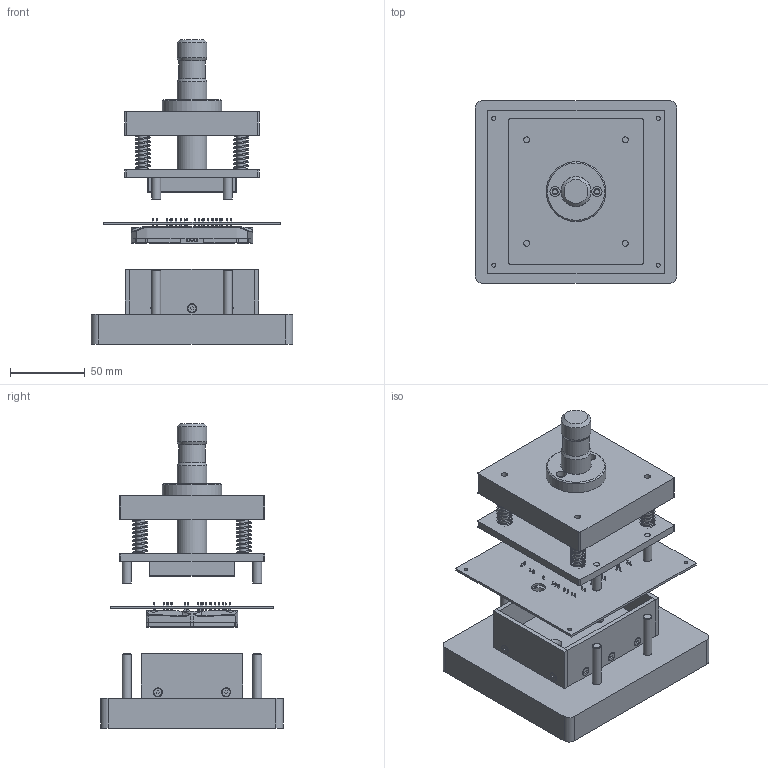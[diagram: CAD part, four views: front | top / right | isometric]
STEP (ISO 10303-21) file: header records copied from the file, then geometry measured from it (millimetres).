
FILE_DESCRIPTION(/* description */ ('Unknown','CAx-IF Rec.Pracs.---Representation and Presentation of Product Manufacturing Information (PMI)---4.0---2014-10-13','CAx-IF Rec.Pracs.---3D Tessellated Geometry---0.4---2014-09-14','2;1'),/* implementation_level */ '2;1');
FILE_NAME(/* name */ 'flowS3-Pressout',/* time_stamp */ '2026-01-13T15:18:04+01:00',/* author */ ('Unknown'),/* organization */ ('Unknown'),/* preprocessor_version */ 'ST-DEVELOPER v20',/* originating_system */ 'Solid Edge',/* authorisation */ 'Unknown');
FILE_SCHEMA (('AP242_MANAGED_MODEL_BASED_3D_ENGINEERING_MIM_LF { 1 0 10303 442 1 1 4 }'));
Products named in the file (22): pressout_assembly_new_FLOWS3; Flow3-midpower-GP_nyak; FlowS3_press-out_bottom; base; baseplate; supporting_pin; cage; pressout_pad; pressout_pad_sidewall_long; pressout_pad_sidewall_short; 400-0173-31-07-01_DIN7991_M3x12_screw; module; 400-0173-10-01-01_Adaptor_for_servo_press; FlowS3_press-out_top; springpin; pressing_plate_lower; spacer; ram; pressing_plate_upper; fixingpin; nyr_SPEC-C0240-020-1000S; DIN 912 M6x40
Assembly tree (44 placements, depth 4):
  pressout_assembly_new_FLOWS3
    Flow3-midpower-GP_nyak
    FlowS3_press-out_bottom
      base
        baseplate
        supporting_pin  x4
      cage
        pressout_pad
        pressout_pad_sidewall_long  x2
        pressout_pad_sidewall_short  x2
      400-0173-31-07-01_DIN7991_M3x12_screw  x10
    module
    400-0173-10-01-01_Adaptor_for_servo_press
    FlowS3_press-out_top
      springpin  x4
      pressing_plate_lower
      spacer
      ram
      pressing_plate_upper
      fixingpin  x4
      nyr_SPEC-C0240-020-1000S  x4
      DIN 912 M6x40
Bounding box: 135 x 122.3 x 203.6 mm (x, y, z)
Volume: 710866.6 mm3; surface area: 200720.7 mm2
Topology: 40 solids, 40 shells, 3248 faces, 8537 edges, 5539 vertices
Faces by surface type: plane 1641, cylinder 1030, cone 437, bspline 100, torus 24, sphere 16
Full cylindrical faces by diameter (mm): 0.5 x1, 2.459 x10, 2.6 x4, 3 x20, 3.2 x10, 3.242 x4, 4 x25, 4.1 x2, 4.4 x2, 4.917 x1, 5.1 x2, 6 x13, 6.05 x2, 6.1 x2, 6.2 x4, 6.8 x2, 9.2 x2, 10 x1, 10.4 x2, 11 x1, 18 x1, 20 x3, 22 x1, 40 x1
Entity records: 120940 total; most frequent: CARTESIAN_POINT 24494, ORIENTED_EDGE 15854, DIRECTION 15653, EDGE_CURVE 7927, AXIS2_PLACEMENT_3D 5541, VERTEX_POINT 5221, LINE 4571, VECTOR 4571
